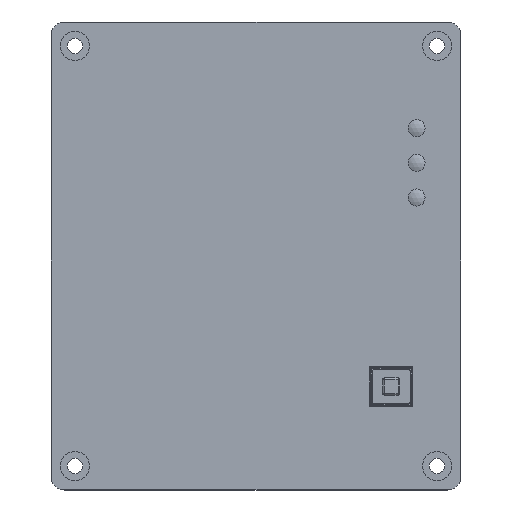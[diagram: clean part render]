
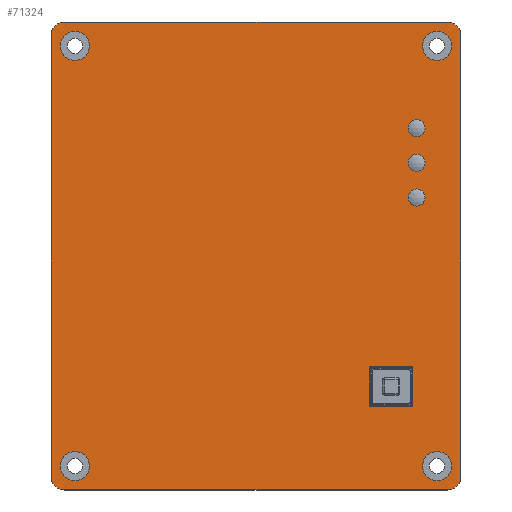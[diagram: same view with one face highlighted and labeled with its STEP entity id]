
A CAD part, top view. The second image highlights one B-rep face of the part: STEP entity #71324.
In plain terms, the highlighted planar face has unit normal (0, 0, 1).
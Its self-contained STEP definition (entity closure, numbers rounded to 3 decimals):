
#466=FACE_BOUND('',#8963,.T.);
#467=FACE_BOUND('',#8964,.T.);
#468=FACE_BOUND('',#8965,.T.);
#469=FACE_BOUND('',#8966,.T.);
#470=FACE_BOUND('',#8967,.T.);
#471=FACE_BOUND('',#8968,.T.);
#472=FACE_BOUND('',#8969,.T.);
#473=FACE_BOUND('',#8970,.T.);
#1980=PLANE('',#76172);
#5109=FACE_OUTER_BOUND('',#8962,.T.);
#8962=EDGE_LOOP('',(#54405,#54406,#54407,#54408,#54409,#54410,#54411,#54412));
#8963=EDGE_LOOP('',(#54413));
#8964=EDGE_LOOP('',(#54414));
#8965=EDGE_LOOP('',(#54415));
#8966=EDGE_LOOP('',(#54416));
#8967=EDGE_LOOP('',(#54417,#54418,#54419,#54420));
#8968=EDGE_LOOP('',(#54421));
#8969=EDGE_LOOP('',(#54422));
#8970=EDGE_LOOP('',(#54423));
#12570=CIRCLE('',#76173,4.);
#12571=CIRCLE('',#76174,4.);
#12572=CIRCLE('',#76175,4.);
#12573=CIRCLE('',#76176,4.);
#12574=CIRCLE('',#76177,4.25);
#12575=CIRCLE('',#76178,4.25);
#12576=CIRCLE('',#76179,4.25);
#12577=CIRCLE('',#76180,4.25);
#12578=CIRCLE('',#76181,2.5);
#12579=CIRCLE('',#76182,2.5);
#12580=CIRCLE('',#76183,2.5);
#16660=LINE('',#108938,#24291);
#16661=LINE('',#108942,#24292);
#16662=LINE('',#108946,#24293);
#16663=LINE('',#108950,#24294);
#16664=LINE('',#108962,#24295);
#16665=LINE('',#108964,#24296);
#16666=LINE('',#108966,#24297);
#16667=LINE('',#108967,#24298);
#24291=VECTOR('',#87848,10.);
#24292=VECTOR('',#87851,10.);
#24293=VECTOR('',#87854,10.);
#24294=VECTOR('',#87857,10.);
#24295=VECTOR('',#87868,10.);
#24296=VECTOR('',#87869,10.);
#24297=VECTOR('',#87870,10.);
#24298=VECTOR('',#87871,10.);
#31793=VERTEX_POINT('',#108936);
#31794=VERTEX_POINT('',#108937);
#31795=VERTEX_POINT('',#108939);
#31796=VERTEX_POINT('',#108941);
#31797=VERTEX_POINT('',#108943);
#31798=VERTEX_POINT('',#108945);
#31799=VERTEX_POINT('',#108947);
#31800=VERTEX_POINT('',#108949);
#31801=VERTEX_POINT('',#108952);
#31802=VERTEX_POINT('',#108954);
#31803=VERTEX_POINT('',#108956);
#31804=VERTEX_POINT('',#108958);
#31805=VERTEX_POINT('',#108960);
#31806=VERTEX_POINT('',#108961);
#31807=VERTEX_POINT('',#108963);
#31808=VERTEX_POINT('',#108965);
#31809=VERTEX_POINT('',#108968);
#31810=VERTEX_POINT('',#108970);
#31811=VERTEX_POINT('',#108972);
#39945=EDGE_CURVE('',#31793,#31794,#16660,.T.);
#39946=EDGE_CURVE('',#31795,#31793,#12570,.T.);
#39947=EDGE_CURVE('',#31796,#31795,#16661,.T.);
#39948=EDGE_CURVE('',#31797,#31796,#12571,.T.);
#39949=EDGE_CURVE('',#31798,#31797,#16662,.T.);
#39950=EDGE_CURVE('',#31799,#31798,#12572,.T.);
#39951=EDGE_CURVE('',#31800,#31799,#16663,.T.);
#39952=EDGE_CURVE('',#31794,#31800,#12573,.T.);
#39953=EDGE_CURVE('',#31801,#31801,#12574,.T.);
#39954=EDGE_CURVE('',#31802,#31802,#12575,.T.);
#39955=EDGE_CURVE('',#31803,#31803,#12576,.T.);
#39956=EDGE_CURVE('',#31804,#31804,#12577,.T.);
#39957=EDGE_CURVE('',#31805,#31806,#16664,.T.);
#39958=EDGE_CURVE('',#31806,#31807,#16665,.T.);
#39959=EDGE_CURVE('',#31807,#31808,#16666,.T.);
#39960=EDGE_CURVE('',#31808,#31805,#16667,.T.);
#39961=EDGE_CURVE('',#31809,#31809,#12578,.T.);
#39962=EDGE_CURVE('',#31810,#31810,#12579,.T.);
#39963=EDGE_CURVE('',#31811,#31811,#12580,.T.);
#54405=ORIENTED_EDGE('',*,*,#39945,.F.);
#54406=ORIENTED_EDGE('',*,*,#39946,.F.);
#54407=ORIENTED_EDGE('',*,*,#39947,.F.);
#54408=ORIENTED_EDGE('',*,*,#39948,.F.);
#54409=ORIENTED_EDGE('',*,*,#39949,.F.);
#54410=ORIENTED_EDGE('',*,*,#39950,.F.);
#54411=ORIENTED_EDGE('',*,*,#39951,.F.);
#54412=ORIENTED_EDGE('',*,*,#39952,.F.);
#54413=ORIENTED_EDGE('',*,*,#39953,.T.);
#54414=ORIENTED_EDGE('',*,*,#39954,.T.);
#54415=ORIENTED_EDGE('',*,*,#39955,.T.);
#54416=ORIENTED_EDGE('',*,*,#39956,.T.);
#54417=ORIENTED_EDGE('',*,*,#39957,.T.);
#54418=ORIENTED_EDGE('',*,*,#39958,.T.);
#54419=ORIENTED_EDGE('',*,*,#39959,.T.);
#54420=ORIENTED_EDGE('',*,*,#39960,.T.);
#54421=ORIENTED_EDGE('',*,*,#39961,.F.);
#54422=ORIENTED_EDGE('',*,*,#39962,.F.);
#54423=ORIENTED_EDGE('',*,*,#39963,.F.);
#71324=ADVANCED_FACE('',(#5109,#466,#467,#468,#469,#470,#471,#472,#473),
#1980,.F.);
#76172=AXIS2_PLACEMENT_3D('',#108935,#87846,#87847);
#76173=AXIS2_PLACEMENT_3D('',#108940,#87849,#87850);
#76174=AXIS2_PLACEMENT_3D('',#108944,#87852,#87853);
#76175=AXIS2_PLACEMENT_3D('',#108948,#87855,#87856);
#76176=AXIS2_PLACEMENT_3D('',#108951,#87858,#87859);
#76177=AXIS2_PLACEMENT_3D('',#108953,#87860,#87861);
#76178=AXIS2_PLACEMENT_3D('',#108955,#87862,#87863);
#76179=AXIS2_PLACEMENT_3D('',#108957,#87864,#87865);
#76180=AXIS2_PLACEMENT_3D('',#108959,#87866,#87867);
#76181=AXIS2_PLACEMENT_3D('',#108969,#87872,#87873);
#76182=AXIS2_PLACEMENT_3D('',#108971,#87874,#87875);
#76183=AXIS2_PLACEMENT_3D('',#108973,#87876,#87877);
#87846=DIRECTION('center_axis',(0.,0.,
-1.));
#87847=DIRECTION('ref_axis',(1.,0.,0.));
#87848=DIRECTION('',(-1.,0.,0.));
#87849=DIRECTION('center_axis',(0.,0.,
-1.));
#87850=DIRECTION('ref_axis',(1.,0.,0.));
#87851=DIRECTION('',(0.,-1.,0.));
#87852=DIRECTION('center_axis',(0.,0.,
-1.));
#87853=DIRECTION('ref_axis',(0.,1.,0.));
#87854=DIRECTION('',(1.,0.,0.));
#87855=DIRECTION('center_axis',(0.,0.,
-1.));
#87856=DIRECTION('ref_axis',(-1.,0.,0.));
#87857=DIRECTION('',(0.,1.,0.));
#87858=DIRECTION('center_axis',(0.,0.,
-1.));
#87859=DIRECTION('ref_axis',(0.,-1.,0.));
#87860=DIRECTION('center_axis',(0.,0.,
-1.));
#87861=DIRECTION('ref_axis',(1.,0.,0.));
#87862=DIRECTION('center_axis',(0.,0.,
-1.));
#87863=DIRECTION('ref_axis',(1.,0.,0.));
#87864=DIRECTION('center_axis',(0.,0.,
-1.));
#87865=DIRECTION('ref_axis',(1.,0.,0.));
#87866=DIRECTION('center_axis',(0.,0.,
-1.));
#87867=DIRECTION('ref_axis',(1.,0.,0.));
#87868=DIRECTION('',(0.,-1.,0.));
#87869=DIRECTION('',(-1.,0.,0.));
#87870=DIRECTION('',(0.,1.,0.));
#87871=DIRECTION('',(1.,0.,0.));
#87872=DIRECTION('center_axis',(0.,0.,
1.));
#87873=DIRECTION('ref_axis',(0.,1.,0.));
#87874=DIRECTION('center_axis',(0.,0.,
1.));
#87875=DIRECTION('ref_axis',(0.,1.,0.));
#87876=DIRECTION('center_axis',(0.,0.,
1.));
#87877=DIRECTION('ref_axis',(0.,1.,0.));
#108935=CARTESIAN_POINT('Origin',(-5.236,-5.282,29.315));
#108936=CARTESIAN_POINT('',(50.764,-73.782,29.315));
#108937=CARTESIAN_POINT('',(-61.236,-73.782,29.315));
#108938=CARTESIAN_POINT('',(50.764,-73.782,29.315));
#108939=CARTESIAN_POINT('',(54.764,-69.782,29.315));
#108940=CARTESIAN_POINT('Origin',(50.764,-69.782,29.315));
#108941=CARTESIAN_POINT('',(54.764,59.218,29.315));
#108942=CARTESIAN_POINT('',(54.764,59.218,29.315));
#108943=CARTESIAN_POINT('',(50.764,63.218,29.315));
#108944=CARTESIAN_POINT('Origin',(50.764,59.218,29.315));
#108945=CARTESIAN_POINT('',(-61.236,63.218,29.315));
#108946=CARTESIAN_POINT('',(-61.236,63.218,29.315));
#108947=CARTESIAN_POINT('',(-65.236,59.218,29.315));
#108948=CARTESIAN_POINT('Origin',(-61.236,59.218,29.315));
#108949=CARTESIAN_POINT('',(-65.236,-69.782,29.315));
#108950=CARTESIAN_POINT('',(-65.236,-69.782,29.315));
#108951=CARTESIAN_POINT('Origin',(-61.236,-69.782,29.315));
#108952=CARTESIAN_POINT('',(-62.486,-66.782,29.315));
#108953=CARTESIAN_POINT('Origin',(-58.236,-66.782,29.315));
#108954=CARTESIAN_POINT('',(43.514,56.218,29.315));
#108955=CARTESIAN_POINT('Origin',(47.764,56.218,29.315));
#108956=CARTESIAN_POINT('',(-62.486,56.218,29.315));
#108957=CARTESIAN_POINT('Origin',(-58.236,56.218,29.315));
#108958=CARTESIAN_POINT('',(43.514,-66.782,29.315));
#108959=CARTESIAN_POINT('Origin',(47.764,-66.782,29.315));
#108960=CARTESIAN_POINT('',(40.664,-37.713,29.315));
#108961=CARTESIAN_POINT('',(40.664,-49.313,29.315));
#108962=CARTESIAN_POINT('',(40.664,-21.497,29.315));
#108963=CARTESIAN_POINT('',(28.064,-49.313,29.315));
#108964=CARTESIAN_POINT('',(17.714,-49.313,29.315));
#108965=CARTESIAN_POINT('',(28.064,-37.713,29.315));
#108966=CARTESIAN_POINT('',(28.064,-27.297,29.315));
#108967=CARTESIAN_POINT('',(11.414,-37.713,29.315));
#108968=CARTESIAN_POINT('',(41.764,29.658,29.315));
#108969=CARTESIAN_POINT('Origin',(41.764,32.158,29.315));
#108970=CARTESIAN_POINT('',(41.764,19.498,29.315));
#108971=CARTESIAN_POINT('Origin',(41.764,21.998,29.315));
#108972=CARTESIAN_POINT('',(41.764,9.338,29.315));
#108973=CARTESIAN_POINT('Origin',(41.764,11.838,29.315));
